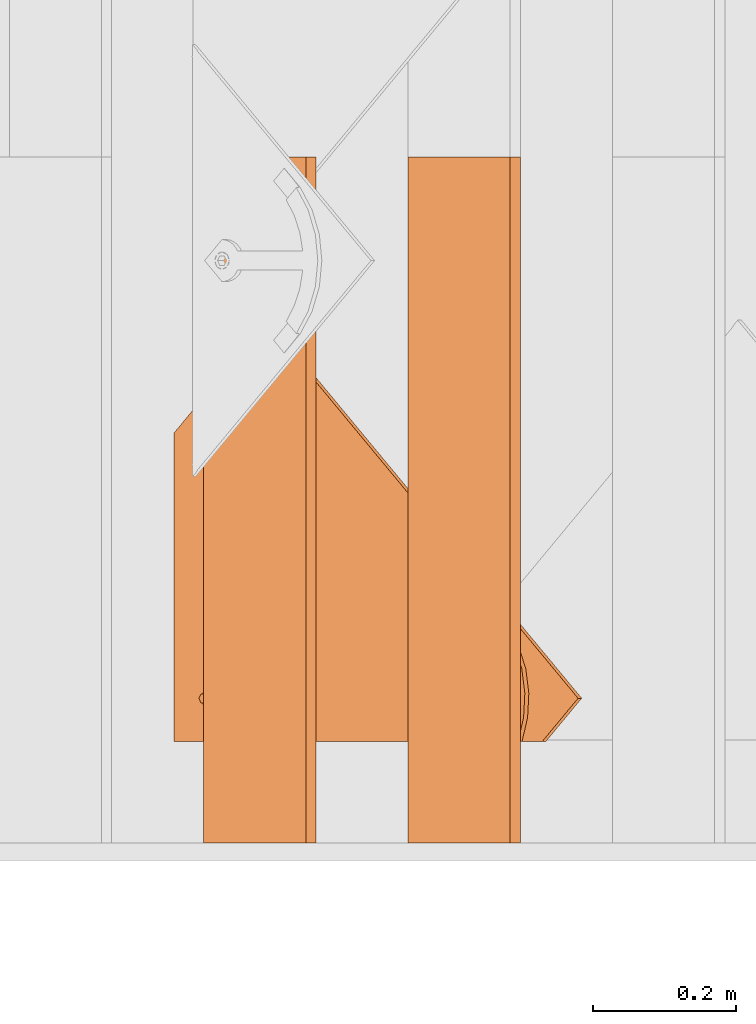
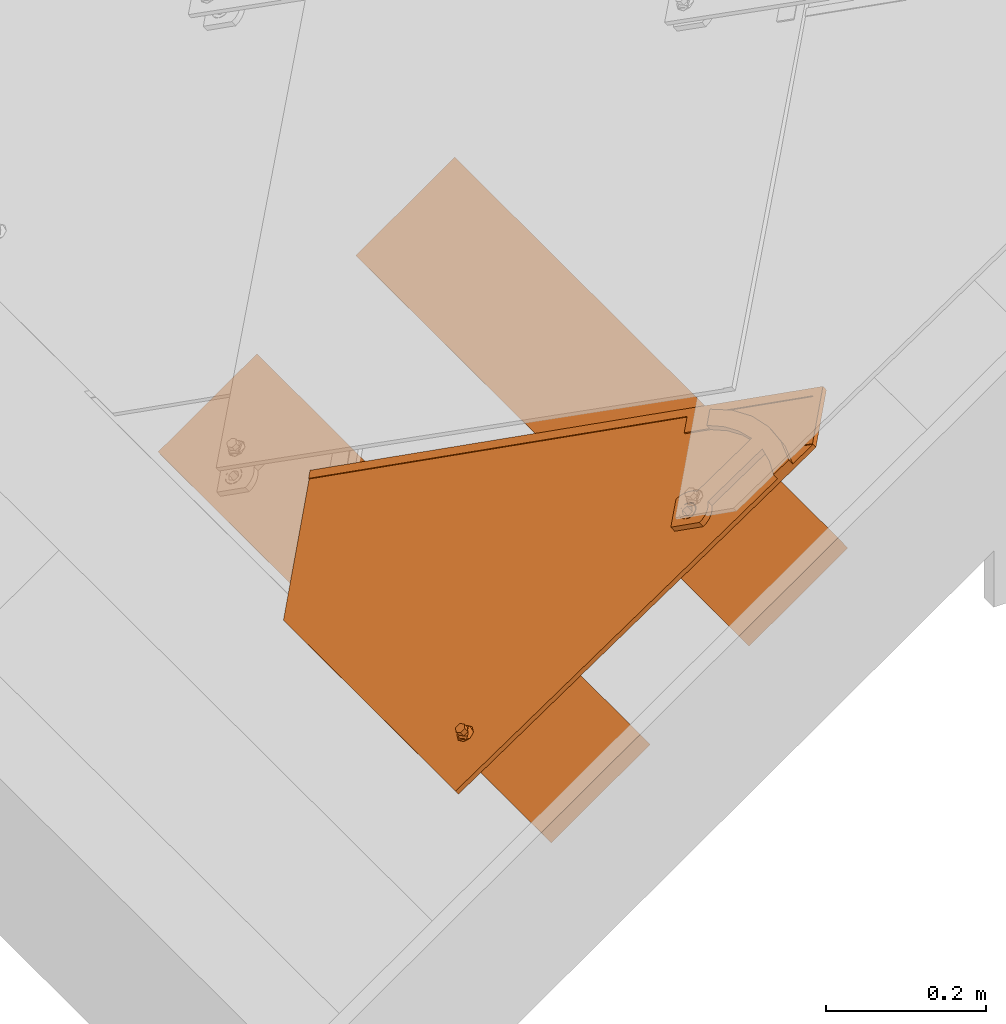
# One storey, part 96 of 133: 3 proxies, 1 element without a shape of its own.
"""IFC2X3 building model written with IfcOpenShell, lengths in millimetres."""

from ifc_helpers import new_model, entity, si_unit, converted_unit, derived_unit, direction, frame, frame_2d, origin, place, context, subcontext, project, spatial, rectangle, extrude, faceted_brep, source, transform, mapped, material, material_list, type_object, type_shapes, element, aggregate, save


model = new_model("IFC2X3")

# Units and contexts
model_context = context("Model", 3, precision=0.01, world=origin(), true_north=direction((6.12303176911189e-17, 1.0)))
body_context = subcontext(model_context, "Body", "Model", "MODEL_VIEW")
ifc_project = project(units=[si_unit("LENGTHUNIT", "METRE", prefix="MILLI"), si_unit("AREAUNIT", "SQUARE_METRE"), si_unit("VOLUMEUNIT", "CUBIC_METRE"), converted_unit("PLANEANGLEUNIT", "DEGREE", entity("IfcRatioMeasure", 0.0174532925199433), si_unit("PLANEANGLEUNIT", "RADIAN"), dimensions=[0, 0, 0, 0, 0, 0, 0]), si_unit("MASSUNIT", "GRAM", prefix="KILO"), derived_unit("MASSDENSITYUNIT", [(si_unit("MASSUNIT", "GRAM", prefix="KILO"), 1), (si_unit("LENGTHUNIT", "METRE"), -3)]), si_unit("TIMEUNIT", "SECOND"), si_unit("FREQUENCYUNIT", "HERTZ"), si_unit("THERMODYNAMICTEMPERATUREUNIT", "DEGREE_CELSIUS"), derived_unit("THERMALTRANSMITTANCEUNIT", [(si_unit("MASSUNIT", "GRAM", prefix="KILO"), 1), (si_unit("THERMODYNAMICTEMPERATUREUNIT", "KELVIN"), -1), (si_unit("TIMEUNIT", "SECOND"), -3)]), derived_unit("VOLUMETRICFLOWRATEUNIT", [(si_unit("LENGTHUNIT", "METRE"), 3), (si_unit("TIMEUNIT", "SECOND"), -1)]), si_unit("ELECTRICCURRENTUNIT", "AMPERE"), si_unit("ELECTRICVOLTAGEUNIT", "VOLT"), si_unit("POWERUNIT", "WATT"), si_unit("FORCEUNIT", "NEWTON", prefix="KILO"), si_unit("ILLUMINANCEUNIT", "LUX"), si_unit("LUMINOUSFLUXUNIT", "LUMEN"), si_unit("LUMINOUSINTENSITYUNIT", "CANDELA"), derived_unit("USERDEFINED", [(si_unit("MASSUNIT", "GRAM", prefix="KILO"), -1), (si_unit("LENGTHUNIT", "METRE"), -2), (si_unit("TIMEUNIT", "SECOND"), 3), (si_unit("LUMINOUSFLUXUNIT", "LUMEN"), 1)]), derived_unit("LINEARVELOCITYUNIT", [(si_unit("LENGTHUNIT", "METRE"), 1), (si_unit("TIMEUNIT", "SECOND"), -1)]), si_unit("PRESSUREUNIT", "PASCAL"), derived_unit("USERDEFINED", [(si_unit("LENGTHUNIT", "METRE"), -2), (si_unit("MASSUNIT", "GRAM", prefix="KILO"), 1), (si_unit("TIMEUNIT", "SECOND"), -2)])], contexts=[model_context])

# Site, building, storey
site_placement = place(None, origin())
site = spatial("IfcSite", under=ifc_project, at=site_placement, Name="Default", CompositionType="ELEMENT")
building_placement = place(site_placement, origin())
building = spatial("IfcBuilding", under=site, at=building_placement, CompositionType="ELEMENT")
storey_placement = place(building_placement, origin())
storey = spatial("IfcBuildingStorey", under=building, at=storey_placement, Name="Level 1", CompositionType="ELEMENT", Elevation=0.0)

# Assembly, proxies
assembly_placement = place(storey_placement, origin())
assembly = element("IfcElementAssembly", 1, at=assembly_placement, inside=storey, Name="Structural Framing Assembly:Roof Construction Assembly", ObjectType="Structural Framing Assembly:Roof Construction Assembly", AssemblyPlace="NOTDEFINED", PredefinedType="USERDEFINED")
ifc_material_1 = material(Name="Wood - Generic - Wood For Showcase")
building_element_proxy_type_1 = type_object("IfcBuildingElementProxyType", Name="Structural Framing 15", PredefinedType="NOTDEFINED", material=ifc_material_1)
shared_shape_1 = source(origin(), body_context, "Body", "SweptSolid", [
    extrude(rectangle(XDim=24.9999999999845, YDim=174.344679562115, at=frame_2d((-1.77635683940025e-13, -4.54747350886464e-13), x_axis=(0.0, 1.0))), frame((1128.20180147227, 2967.09519417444, 2760.23940055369), z_axis=(0.0, 1.0, 0.0), x_axis=(-0.819152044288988, 0.0, -0.573576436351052)), (0.0, 0.0, 1.0), 958.455607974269),
])
type_shapes(building_element_proxy_type_1, [shared_shape_1])
proxy_1_placement = place(assembly_placement, frame((-3141.92561483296, -9670.0, -2200.0)))
proxy_1 = element("IfcBuildingElementProxy", 2, at=proxy_1_placement, type_object=building_element_proxy_type_1, material=ifc_material_1, Name="Structural Framing 129:Structural Framing 15", ObjectType="Structural Framing 129:Structural Framing 15", context=body_context, shape_type="MappedRepresentation", body=[
    mapped(shared_shape_1, transform((0.0, 0.0, 0.0), scale=1.0)),
])
building_element_proxy_type_2 = type_object("IfcBuildingElementProxyType", Name="Structural Framing 15", PredefinedType="NOTDEFINED", material=ifc_material_1)
shared_shape_2 = source(origin(), body_context, "Body", "SweptSolid", [
    extrude(rectangle(XDim=24.9999999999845, YDim=174.344679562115, at=frame_2d((-1.77635683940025e-13, -4.54747350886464e-13), x_axis=(0.0, 1.0))), frame((1128.20180147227, 2967.09519417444, 2760.23940055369), z_axis=(0.0, 1.0, 0.0), x_axis=(-0.819152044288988, 0.0, -0.573576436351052)), (0.0, 0.0, 1.0), 958.455607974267),
])
type_shapes(building_element_proxy_type_2, [shared_shape_2])
proxy_2_placement = place(assembly_placement, frame((-3427.55521618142, -9670.0, -2400.0)))
proxy_2 = element("IfcBuildingElementProxy", 3, at=proxy_2_placement, type_object=building_element_proxy_type_2, material=ifc_material_1, Name="Structural Framing 139:Structural Framing 15", ObjectType="Structural Framing 139:Structural Framing 15", context=body_context, shape_type="MappedRepresentation", body=[
    mapped(shared_shape_2, transform((0.0, 0.0, 0.0), scale=1.0)),
])
aggregate(assembly, [proxy_1, proxy_2])

# Proxy
ifc_material_2 = material(Name="Rubber - Sunstyle - Black")
ifc_material_3 = material(Name="Glass - Sunstyle - Tainted Black")
ifc_material_list_1 = material_list([ifc_material_2, ifc_material_3])
ifc_material_list_2 = material_list([ifc_material_2, ifc_material_3])
building_element_proxy_type_3 = type_object("IfcBuildingElementProxyType", Name="Corner Bottom Big Right - Black", PredefinedType="NOTDEFINED", material=ifc_material_list_2)
shared_shape_3 = source(origin(), body_context, "Body", "Brep", [
    faceted_brep([(0.270009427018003, -2.025866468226, -4.01619789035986), (-5.50419340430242, -5.35913660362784, -3.96037390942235), (-5.50419340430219, -4.99082751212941, 18.0314954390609), (0.270009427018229, -1.65755737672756, 17.9756714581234), (-5.50419340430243, -12.0256768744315, -3.84872594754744), (-5.5041934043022, -11.6573677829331, 18.1431434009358), (0.270009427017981, -15.3589470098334, -3.79290196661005), (0.270009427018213, -14.990637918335, 18.1989673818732), (6.04421225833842, -12.0256768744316, -3.84872594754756), (6.04421225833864, -11.6573677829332, 18.1431434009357), (6.04421225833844, -5.35913660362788, -3.96037390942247), (6.04421225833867, -4.99082751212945, 18.0314954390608), (-8.3336947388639, -16.9265954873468, 18.2313898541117), (0.27000942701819, -20.4898667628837, 18.2910657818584), (-11.8974656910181, -8.32409764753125, 18.0873194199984), (-8.33369473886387, 0.278400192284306, 17.9432489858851), (0.270009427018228, 3.84167146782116, 17.8835730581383), (8.87371359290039, 0.278400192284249, 17.9432489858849), (12.4374845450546, -8.32409764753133, 18.0873194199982), (8.87371359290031, -16.9265954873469, 18.2313898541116), (-11.1602134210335, -6.95050198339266, 20.4858706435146), (-9.50050407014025, -8.25322861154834, 22.3189355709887), (0.270009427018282, -0.940007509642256, 22.9603444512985), (0.27000942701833, 0.300490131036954, 22.3799978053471), (0.270009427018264, 2.4580409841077, 21.3706227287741), (-6.05323627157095, -4.59022324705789, 23.0214764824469), (-6.05323627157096, -11.8906547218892, 23.1437405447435), (0.270009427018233, -18.990246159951, 21.7298281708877), (0.270009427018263, -15.5408704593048, 23.2048725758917), (11.2551842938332, -12.0411541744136, 20.3827540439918), (10.3938597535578, -8.25726753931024, 22.077768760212), (6.59325512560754, -4.59022324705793, 23.0214764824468), (6.5932551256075, -11.8906547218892, 23.1437405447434), (-6.05323627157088, -11.7566262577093, 31.1466287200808), (0.270009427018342, -15.4068419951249, 31.207760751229), (0.270009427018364, -8.10641052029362, 31.0854966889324), (-6.05323627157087, -4.456194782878, 31.0243646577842), (6.59325512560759, -11.7566262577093, 31.1466287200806), (6.59325512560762, -4.45619478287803, 31.024364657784), (0.270009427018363, -0.805979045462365, 30.9632326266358), (0.270009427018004, -8.69240673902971, -3.90454992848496)], [[[0, 1, 2, 3]], [[1, 4, 5, 2]], [[4, 6, 7, 5]], [[6, 8, 9, 7]], [[8, 10, 11, 9]], [[10, 0, 3, 11]], [[12, 7, 13]], [[7, 12, 5]], [[14, 5, 12]], [[5, 14, 2]], [[15, 2, 14]], [[3, 2, 15]], [[15, 16, 3]], [[16, 17, 3]], [[11, 3, 17]], [[11, 17, 18]], [[9, 11, 18]], [[18, 19, 9]], [[7, 9, 19]], [[19, 13, 7]], [[15, 20, 16]], [[21, 22, 23, 24]], [[22, 21, 25]], [[20, 14, 12]], [[15, 14, 20]], [[25, 21, 26]], [[20, 24, 16]], [[12, 13, 27]], [[12, 27, 20]], [[21, 28, 26]], [[21, 27, 28]], [[20, 21, 24]], [[20, 27, 21]], [[19, 29, 13]], [[30, 23, 31]], [[30, 28, 27]], [[24, 23, 30]], [[29, 27, 13]], [[19, 18, 29]], [[29, 30, 27]], [[29, 17, 24]], [[24, 17, 16]], [[31, 32, 30]], [[23, 22, 31]], [[28, 30, 32]], [[29, 24, 30]], [[29, 18, 17]], [[33, 34, 35]], [[35, 36, 33]], [[34, 37, 35]], [[38, 35, 37]], [[35, 38, 39]], [[35, 39, 36]], [[40, 6, 4]], [[4, 1, 40]], [[1, 0, 40]], [[40, 8, 6]], [[0, 10, 40]], [[8, 40, 10]], [[22, 25, 36, 39]], [[25, 26, 33, 36]], [[26, 28, 34, 33]], [[28, 32, 37, 34]], [[32, 31, 38, 37]], [[31, 22, 39, 38]]]),
    faceted_brep([(-518.247351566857, 79.9143812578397, 14.9652572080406), (-518.247351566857, 79.9394990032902, 16.4650468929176), (-526.732038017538, 88.4241854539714, 16.3229495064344), (-526.732038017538, 88.399067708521, 14.8231598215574), (-0.00032251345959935, 614.98308737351, 6.00418773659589), (60.1037538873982, 554.895864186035, 7.01049921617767), (51.6190674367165, 546.411177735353, 7.15259660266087), (-0.000322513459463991, 598.016093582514, 6.28834266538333), (-0.000322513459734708, 615.00820511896, 7.50397742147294), (-0.000322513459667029, 598.041211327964, 7.78813235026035), (51.6190674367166, 546.436295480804, 8.65238628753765), (60.1037538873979, 554.920981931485, 8.51028890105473)], [[[0, 1, 2, 3]], [[0, 3, 4, 5, 6, 7]], [[3, 2, 8, 4]], [[2, 1, 9, 10, 11, 8]], [[1, 0, 7, 9]], [[6, 5, 11, 10]], [[4, 8, 11, 5]], [[9, 7, 6, 10]]]),
    faceted_brep([(0.0, 372.774440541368, 20.3195200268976), (0.0, 377.273809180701, 20.2441667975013), (-8.60370416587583, 376.337711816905, 20.2598440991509), (8.60370416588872, 376.337711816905, 20.2598440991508), (6.64022859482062, 381.107009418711, 20.1799702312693), (12.1674751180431, 384.940209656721, 20.1157736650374), (6.64022859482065, 388.773409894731, 20.0515770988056), (8.6037041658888, 393.542707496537, 19.9717032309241), (0.0, 392.606610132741, 19.9873805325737), (0.0, 397.105978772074, 19.9120273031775), (-8.60370416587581, 393.542707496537, 19.9717032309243), (-6.64022859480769, 388.773409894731, 20.0515770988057), (-12.1674751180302, 384.940209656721, 20.1157736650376), (-6.6402285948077, 381.107009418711, 20.1799702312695), (-6.6402282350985, 388.505487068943, 4.05382046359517), (0.0, 392.338687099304, 3.98962390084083), (-6.64022823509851, 380.839087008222, 4.18221358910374), (0.0, 377.005886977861, 4.24641015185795), (6.64022823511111, 380.839087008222, 4.1822135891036), (6.64022823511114, 388.505487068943, 4.05382046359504), (-8.603704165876, 376.069789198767, 4.26208746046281), (0.0, 372.50651792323, 4.32176338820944), (-12.1674751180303, 384.672287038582, 4.11801702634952), (-8.60370416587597, 393.274784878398, 3.97394659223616), (0.0, 396.838056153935, 3.91427066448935), (8.60370416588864, 393.274784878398, 3.97394659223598), (12.1674751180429, 384.672287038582, 4.11801702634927), (8.60370416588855, 376.069789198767, 4.26208746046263)], [[[0, 1, 2]], [[1, 0, 3]], [[3, 4, 1]], [[4, 3, 5]], [[6, 4, 5]], [[5, 7, 6]], [[7, 8, 6]], [[8, 7, 9]], [[8, 9, 10]], [[10, 11, 8]], [[12, 11, 10]], [[2, 13, 12]], [[12, 13, 11]], [[13, 2, 1]], [[8, 11, 14, 15]], [[11, 13, 16, 14]], [[13, 1, 17, 16]], [[1, 4, 18, 17]], [[4, 6, 19, 18]], [[6, 8, 15, 19]], [[20, 17, 21]], [[17, 20, 16]], [[22, 16, 20]], [[14, 16, 22]], [[23, 14, 22]], [[15, 14, 23]], [[23, 24, 15]], [[24, 25, 15]], [[19, 15, 25]], [[19, 25, 26]], [[26, 18, 19]], [[26, 27, 18]], [[17, 18, 27]], [[27, 21, 17]], [[24, 23, 10, 9]], [[10, 23, 22, 12]], [[20, 21, 0, 2]], [[20, 2, 12, 22]], [[21, 27, 3, 0]], [[3, 27, 26, 5]], [[25, 24, 9, 7]], [[25, 7, 5, 26]]]),
    faceted_brep([(-10.3923048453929, 390.78484910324, 9.75895037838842), (-8.48528137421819, 393.269782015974, 9.7173339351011), (-0.00032251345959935, 614.983087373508, 6.0041877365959), (-11.5911099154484, 387.891083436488, 9.8074137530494), (-6.0, 395.176538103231, 9.68540051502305), (-3.10582854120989, 396.37517508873, 9.6653263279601), (60.1037538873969, 554.895864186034, 7.01049921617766), (0.0, 396.784007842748, 9.65847939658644), (3.1058285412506, 396.37517508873, 9.6653263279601), (6.0, 395.176538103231, 9.68540051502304), (8.48528137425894, 393.269782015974, 9.7173339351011), (10.3923048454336, 390.784849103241, 9.75895037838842), (11.5911099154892, 387.891083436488, 9.8074137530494), (12.0, 384.785690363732, 9.8594213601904), (11.5911099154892, 381.680297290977, 9.9114289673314), (60.103753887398, -67.933460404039, 17.4413406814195), (10.3923048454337, 378.786531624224, 9.95989234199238), (6.58173564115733, -3.94243384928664, 16.369650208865), (8.48528137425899, 376.301598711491, 10.0015087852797), (5.31038666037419, -2.28581190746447, 16.3419059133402), (6.0, 374.394842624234, 10.0334422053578), (3.65353241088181, -1.01464118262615, 16.3206169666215), (3.10582854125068, 373.196205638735, 10.0535163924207), (1.72408477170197, -0.215549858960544, 16.3072341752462), (0.0, 372.787372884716, 10.0603633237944), (-0.346467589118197, 0.0570053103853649, 16.3026695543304), (-2.41701994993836, -0.215549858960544, 16.3072341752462), (-3.10582854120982, 373.196205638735, 10.0535163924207), (-4.34646758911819, -1.01464118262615, 16.3206169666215), (-6.0, 374.394842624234, 10.0334422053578), (-6.00332183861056, -2.28581190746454, 16.3419059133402), (-8.48528137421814, 376.301598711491, 10.0015087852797), (-370.355661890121, -67.9334604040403, 17.4413406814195), (-10.3923048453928, 378.786531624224, 9.95989234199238), (-526.732038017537, 88.3990677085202, 14.8231598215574), (-11.5911099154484, 381.680297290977, 9.9114289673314), (-12.0, 384.785690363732, 9.8594213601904), (-7.27467081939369, -3.94243384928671, 16.369650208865), (-8.07387419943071, -5.87161096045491, 16.4019591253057), (-8.34646758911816, -7.94187300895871, 16.4366308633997), (-8.0738741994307, -10.0121350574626, 16.4713026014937), (-7.27467081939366, -11.9413121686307, 16.5036115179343), (-6.00332183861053, -13.5979341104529, 16.5313558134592), (-4.34646758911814, -14.8691048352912, 16.5526447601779), (-2.41701994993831, -15.6681961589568, 16.5660275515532), (7.38093902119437, -5.87161096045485, 16.4019591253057), (7.65353241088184, -7.94187300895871, 16.4366308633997), (7.38093902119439, -10.0121350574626, 16.4713026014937), (6.58173564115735, -11.9413121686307, 16.5036115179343), (5.31038666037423, -13.5979341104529, 16.5313558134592), (3.65353241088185, -14.8691048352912, 16.5526447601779), (1.72408477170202, -15.6681961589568, 16.5660275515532), (-0.346467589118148, -15.9407513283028, 16.570592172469), (-370.355661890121, -68.0590491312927, 9.94239225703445), (-8.0738741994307, -10.1377237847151, 8.97235417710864), (-7.27467081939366, -12.0669008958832, 9.00466309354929), (-8.34646758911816, -8.06746173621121, 8.93768243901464), (-6.00332183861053, -13.7235228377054, 9.03240738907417), (-4.34646758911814, -14.9946935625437, 9.05369633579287), (60.103753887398, -68.0590491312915, 9.94239225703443), (-8.07387419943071, -5.99719968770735, 8.90301070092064), (-7.27467081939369, -4.06802257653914, 8.87070178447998), (-6.00332183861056, -2.41140063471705, 8.8429574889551), (-8.48528137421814, 376.176009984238, 2.50256036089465), (-10.3923048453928, 378.660942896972, 2.46094391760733), (-526.732038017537, 88.2734789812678, 7.32421139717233), (-11.5911099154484, 381.554708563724, 2.41248054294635), (-12.0, 384.66010163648, 2.36047293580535), (-11.5911099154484, 387.765494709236, 2.30846532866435), (-0.00032251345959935, 614.857498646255, -1.49476068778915), (-10.3923048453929, 390.659260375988, 2.26000195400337), (-8.48528137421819, 393.144193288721, 2.21838551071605), (-6.0, 395.050949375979, 2.18645209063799), (-3.10582854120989, 396.249586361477, 2.16637790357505), (60.1037538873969, 554.770275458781, -0.488449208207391), (0.0, 396.658419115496, 2.15953097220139), (3.1058285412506, 396.249586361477, 2.16637790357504), (6.0, 395.050949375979, 2.18645209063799), (8.48528137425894, 393.144193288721, 2.21838551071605), (10.3923048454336, 390.659260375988, 2.26000195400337), (11.5911099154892, 387.765494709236, 2.30846532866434), (12.0, 384.66010163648, 2.36047293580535), (11.5911099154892, 381.554708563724, 2.41248054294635), (-2.41701994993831, -15.7937848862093, 9.06707912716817), (-0.346467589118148, -16.0663400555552, 9.07164374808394), (1.72408477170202, -15.7937848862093, 9.06707912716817), (3.65353241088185, -14.9946935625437, 9.05369633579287), (5.31038666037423, -13.7235228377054, 9.03240738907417), (6.58173564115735, -12.0669008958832, 9.00466309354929), (7.38093902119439, -10.1377237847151, 8.97235417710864), (7.65353241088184, -8.06746173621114, 8.93768243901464), (7.38093902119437, -5.99719968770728, 8.90301070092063), (6.58173564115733, -4.06802257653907, 8.87070178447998), (10.3923048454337, 378.660942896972, 2.46094391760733), (-6.0, 374.269253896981, 2.5344937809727), (-4.34646758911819, -1.14022990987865, 8.8216685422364), (-3.10582854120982, 373.070616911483, 2.55456796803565), (-2.41701994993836, -0.341138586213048, 8.8082857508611), (0.0, 372.661784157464, 2.56141489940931), (-0.346467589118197, -0.0685834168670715, 8.80372112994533), (1.72408477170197, -0.341138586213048, 8.8082857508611), (3.10582854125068, 373.070616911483, 2.55456796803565), (3.65353241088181, -1.14022990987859, 8.8216685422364), (6.0, 374.269253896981, 2.5344937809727), (5.31038666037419, -2.41140063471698, 8.8429574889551), (8.48528137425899, 376.176009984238, 2.50256036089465)], [[[0, 1, 2]], [[3, 0, 2]], [[4, 2, 1]], [[2, 4, 5]], [[6, 2, 5]], [[7, 6, 5]], [[7, 8, 6]], [[8, 9, 6]], [[10, 6, 9]], [[6, 10, 11]], [[6, 11, 12]], [[12, 13, 6]], [[13, 14, 6]], [[6, 14, 15]], [[14, 16, 15]], [[17, 15, 16]], [[18, 17, 16]], [[17, 18, 19]], [[18, 20, 19]], [[21, 19, 20]], [[20, 22, 21]], [[23, 21, 22]], [[24, 23, 22]], [[23, 24, 25]], [[26, 25, 24]], [[24, 27, 26]], [[26, 27, 28]], [[29, 28, 27]], [[28, 29, 30]], [[29, 31, 30]], [[32, 30, 31]], [[33, 32, 31]], [[33, 34, 32]], [[33, 35, 34]], [[35, 36, 34]], [[36, 3, 34]], [[3, 2, 34]], [[30, 32, 37]], [[37, 32, 38]], [[32, 39, 38]], [[39, 32, 40]], [[40, 32, 41]], [[42, 41, 32]], [[42, 32, 43]], [[43, 32, 15]], [[15, 44, 43]], [[17, 45, 15]], [[45, 46, 15]], [[47, 15, 46]], [[47, 48, 15]], [[49, 15, 48]], [[15, 49, 50]], [[50, 51, 15]], [[51, 52, 15]], [[52, 44, 15]], [[53, 54, 55]], [[54, 53, 56]], [[53, 55, 57]], [[57, 58, 53]], [[53, 58, 59]], [[60, 56, 53]], [[61, 60, 53]], [[61, 53, 62]], [[63, 62, 53]], [[64, 63, 53]], [[65, 64, 53]], [[65, 66, 64]], [[66, 65, 67]], [[67, 65, 68]], [[65, 69, 68]], [[70, 68, 69]], [[71, 70, 69]], [[72, 71, 69]], [[69, 73, 72]], [[74, 73, 69]], [[75, 73, 74]], [[76, 75, 74]], [[77, 76, 74]], [[74, 78, 77]], [[78, 74, 79]], [[80, 79, 74]], [[80, 74, 81]], [[82, 81, 74]], [[82, 74, 59]], [[59, 58, 83]], [[84, 59, 83]], [[84, 85, 59]], [[85, 86, 59]], [[87, 59, 86]], [[59, 87, 88]], [[59, 88, 89]], [[89, 90, 59]], [[90, 91, 59]], [[91, 92, 59]], [[92, 93, 59]], [[93, 82, 59]], [[94, 62, 63]], [[94, 95, 62]], [[96, 95, 94]], [[97, 95, 96]], [[96, 98, 97]], [[99, 97, 98]], [[99, 98, 100]], [[101, 100, 98]], [[102, 100, 101]], [[103, 102, 101]], [[104, 102, 103]], [[103, 105, 104]], [[105, 92, 104]], [[105, 93, 92]], [[36, 67, 68, 3]], [[3, 68, 70, 0]], [[4, 1, 71, 72]], [[70, 71, 1, 0]], [[5, 4, 72, 73]], [[75, 7, 5, 73]], [[8, 76, 77, 9]], [[9, 77, 78, 10]], [[12, 11, 79, 80]], [[78, 79, 11, 10]], [[13, 12, 80, 81]], [[8, 7, 75, 76]], [[13, 81, 82, 14]], [[14, 82, 93, 16]], [[20, 18, 105, 103]], [[93, 105, 18, 16]], [[22, 20, 103, 101]], [[98, 24, 22, 101]], [[27, 96, 94, 29]], [[29, 94, 63, 31]], [[35, 33, 64, 66]], [[63, 64, 33, 31]], [[36, 35, 66, 67]], [[27, 24, 98, 96]], [[34, 2, 69, 65]], [[32, 34, 65, 53]], [[15, 32, 53, 59]], [[6, 15, 59, 74]], [[2, 6, 74, 69]], [[39, 56, 60, 38]], [[38, 60, 61, 37]], [[28, 30, 62, 95]], [[62, 30, 37, 61]], [[26, 28, 95, 97]], [[26, 97, 99, 25]], [[25, 99, 100, 23]], [[23, 100, 102, 21]], [[17, 19, 104, 92]], [[104, 19, 21, 102]], [[45, 17, 92, 91]], [[45, 91, 90, 46]], [[46, 90, 89, 47]], [[47, 89, 88, 48]], [[50, 49, 87, 86]], [[87, 49, 48, 88]], [[51, 50, 86, 85]], [[51, 85, 84, 52]], [[52, 84, 83, 44]], [[44, 83, 58, 43]], [[41, 42, 57, 55]], [[57, 42, 43, 58]], [[40, 41, 55, 54]], [[40, 54, 56, 39]]]),
    faceted_brep([(-114.2509690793, 483.839345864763, 10.7008696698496), (-128.946713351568, 469.147722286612, 10.9469178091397), (-111.269043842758, 451.472531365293, 11.2429332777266), (-84.944396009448, 477.793488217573, 10.8021227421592), (-102.027571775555, 494.874268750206, 10.5160621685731), (-108.279973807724, 489.512620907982, 10.6058564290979), (0.0, 355.735286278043, 10.3459433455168), (0.0, 373.122276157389, 10.0547545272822), (3.10582854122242, 373.531108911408, 10.0479075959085), (-3.10582854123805, 373.531108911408, 10.0479075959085), (6.0, 374.729745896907, 10.0278334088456), (8.48528137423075, 376.636501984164, 9.99589998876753), (29.3894280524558, 385.120593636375, 9.85381256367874), (-6.0, 374.729745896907, 10.0278334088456), (-8.4852813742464, 376.636501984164, 9.99589998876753), (-29.3894280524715, 385.120593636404, 9.85381256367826), (-10.3923048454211, 379.121434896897, 9.95428354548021), (-11.5911099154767, 382.01520056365, 9.90582017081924), (-12.0, 385.120593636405, 9.85381256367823), (-28.6795527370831, 391.540108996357, 9.74630165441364), (-11.5911099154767, 388.225986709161, 9.80180495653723), (-26.5842195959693, 397.649509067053, 9.64398440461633), (-10.3923048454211, 391.119752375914, 9.75334158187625), (-23.204650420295, 403.153659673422, 9.55180357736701), (-8.48528137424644, 393.604685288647, 9.71172513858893), (-18.704106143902, 407.786665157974, 9.47421226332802), (-6.0, 395.511441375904, 9.67979171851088), (-13.3000000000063, 411.324713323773, 9.41495875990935), (-3.10582854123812, 396.710078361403, 9.65971753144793), (0.0, 397.118911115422, 9.65287060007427), (13.2999999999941, 411.324713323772, 9.41495875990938), (-13.3000000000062, 505.643535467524, 7.83535317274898), (13.2999999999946, 505.643535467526, 7.83535317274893), (-7.21723712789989, 530.953901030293, 7.41146752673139), (-41.1626974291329, 525.784666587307, 7.49803934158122), (-38.7697427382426, 500.828655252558, 7.91599043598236), (-73.2491712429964, 513.560140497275, 7.70276973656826), (-62.9243331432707, 491.42502143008, 8.07347790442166), (-84.9431983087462, 477.752822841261, 8.30245321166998), (-102.027571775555, 494.832405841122, 8.01641269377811), (-108.279973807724, 489.470757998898, 8.10620695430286), (-114.2509690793, 483.79748295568, 8.20122019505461), (-111.269043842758, 451.430668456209, 8.74328380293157), (-128.946713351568, 469.105859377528, 8.44726833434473), (27.0541674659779, 528.834391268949, 7.44696404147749), (37.2599857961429, 501.252149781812, 7.90889795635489), (60.1037538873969, 519.521858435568, 7.60292579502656), (60.1037538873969, 492.795625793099, 8.05052369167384), (3.10582854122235, 396.710078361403, 9.65971753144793), (6.0, 395.511441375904, 9.67979171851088), (18.7041061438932, 407.786665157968, 9.47421226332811), (8.48528137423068, 393.604685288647, 9.71172513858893), (23.2046504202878, 403.153659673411, 9.55180357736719), (10.3923048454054, 391.119752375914, 9.75334158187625), (26.5842195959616, 397.649509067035, 9.64398440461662), (11.591109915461, 388.225986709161, 9.80180495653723), (28.6795527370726, 391.540108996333, 9.74630165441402), (12.0, 385.120593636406, 9.85381256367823), (11.591109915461, 382.01520056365, 9.90582017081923), (10.3923048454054, 379.121434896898, 9.95428354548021), (-38.7697427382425, 500.996106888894, 17.9145883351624), (-41.1626974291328, 525.952118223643, 17.4966372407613), (-73.2491712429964, 513.727592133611, 17.7013676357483), (-62.9243331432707, 491.592473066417, 18.0720758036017), (-13.3000000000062, 505.810987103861, 17.833951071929), (-7.21723712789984, 531.121352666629, 17.4100654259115), (13.2999999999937, 505.810987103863, 17.833951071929), (-13.3000000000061, 411.49216496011, 19.4135566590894), (13.2999999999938, 411.492164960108, 19.4135566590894), (0.0, 397.286362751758, 19.6514684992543), (-3.10582854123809, 396.877529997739, 19.658315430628), (-6.0, 395.678893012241, 19.6783896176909), (-18.7041061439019, 407.954116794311, 19.4728101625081), (-8.48528137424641, 393.772136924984, 19.710323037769), (-23.2046504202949, 403.321111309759, 19.5504014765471), (-10.3923048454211, 391.28720401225, 19.7519394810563), (-26.5842195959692, 397.816960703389, 19.6425823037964), (-11.5911099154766, 388.393438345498, 19.8004028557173), (-28.6795527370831, 391.707560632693, 19.7448995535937), (-12.0, 385.288045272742, 19.8524104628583), (-29.3894280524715, 385.28804527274, 19.8524104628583), (-11.5911099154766, 382.182652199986, 19.9044180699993), (-10.3923048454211, 379.288886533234, 19.9528814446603), (-8.48528137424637, 376.803953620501, 19.9944978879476), (0.0, 355.902737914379, 20.3445412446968), (-6.0, 374.897197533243, 20.0264313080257), (-3.10582854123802, 373.698560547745, 20.0465054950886), (0.0, 373.289727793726, 20.0533524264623), (3.10582854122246, 373.698560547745, 20.0465054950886), (6.0, 374.897197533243, 20.0264313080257), (8.48528137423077, 376.803953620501, 19.9944978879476), (29.3894280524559, 385.288045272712, 19.8524104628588), (10.3923048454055, 379.288886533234, 19.9528814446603), (11.591109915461, 382.182652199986, 19.9044180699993), (12.0, 385.288045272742, 19.8524104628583), (28.6795527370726, 391.70756063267, 19.7448995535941), (11.591109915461, 388.393438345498, 19.8004028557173), (26.5842195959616, 397.816960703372, 19.6425823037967), (10.3923048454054, 391.28720401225, 19.7519394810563), (23.2046504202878, 403.321111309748, 19.5504014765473), (8.48528137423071, 393.772136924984, 19.710323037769), (18.7041061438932, 407.954116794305, 19.4728101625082), (6.0, 395.678893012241, 19.6783896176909), (3.10582854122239, 396.877529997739, 19.658315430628), (27.0541674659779, 529.001842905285, 17.4455619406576), (37.259985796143, 501.419601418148, 17.907495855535), (60.1037538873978, 519.689310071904, 17.6015236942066), (60.1037538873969, 492.963077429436, 18.0491215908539), (-84.9443960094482, 477.919076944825, 18.3010711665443), (-102.027571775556, 494.999857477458, 18.0150105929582)], [[[0, 1, 2, 3, 4, 5]], [[6, 7, 8]], [[7, 6, 9]], [[6, 8, 10]], [[10, 11, 6]], [[6, 11, 12]], [[13, 9, 6]], [[14, 13, 6]], [[14, 6, 15]], [[15, 16, 14]], [[16, 15, 17]], [[17, 15, 18]], [[19, 18, 15]], [[20, 18, 19]], [[19, 21, 20]], [[20, 21, 22]], [[23, 22, 21]], [[23, 24, 22]], [[23, 25, 24]], [[25, 26, 24]], [[26, 25, 27]], [[28, 26, 27]], [[27, 29, 28]], [[30, 29, 27]], [[30, 27, 31]], [[30, 31, 32]], [[31, 33, 32]], [[33, 31, 34]], [[35, 34, 31]], [[34, 35, 36]], [[37, 36, 35]], [[37, 38, 36]], [[36, 38, 39]], [[40, 39, 38]], [[40, 38, 41]], [[38, 42, 41]], [[42, 43, 41]], [[32, 33, 44]], [[44, 45, 32]], [[45, 44, 46]], [[46, 47, 45]], [[48, 29, 30]], [[30, 49, 48]], [[49, 30, 50]], [[50, 51, 49]], [[50, 52, 51]], [[51, 52, 53]], [[54, 53, 52]], [[54, 55, 53]], [[56, 55, 54]], [[57, 55, 56]], [[12, 57, 56]], [[58, 57, 12]], [[12, 11, 59]], [[58, 12, 59]], [[1, 0, 41, 43]], [[2, 1, 43, 42]], [[4, 39, 40, 5]], [[40, 41, 0, 5]], [[3, 2, 42, 38]], [[60, 61, 62]], [[63, 60, 62]], [[64, 61, 60]], [[61, 64, 65]], [[66, 65, 64]], [[66, 64, 67]], [[66, 67, 68]], [[68, 67, 69]], [[67, 70, 69]], [[71, 70, 67]], [[71, 67, 72]], [[72, 73, 71]], [[73, 72, 74]], [[73, 74, 75]], [[74, 76, 75]], [[75, 76, 77]], [[78, 77, 76]], [[78, 79, 77]], [[78, 80, 79]], [[79, 80, 81]], [[82, 81, 80]], [[83, 82, 80]], [[83, 80, 84]], [[85, 83, 84]], [[86, 85, 84]], [[87, 86, 84]], [[87, 84, 88]], [[89, 88, 84]], [[89, 84, 90]], [[91, 90, 84]], [[92, 90, 91]], [[91, 93, 92]], [[93, 91, 94]], [[95, 94, 91]], [[95, 96, 94]], [[95, 97, 96]], [[96, 97, 98]], [[99, 98, 97]], [[98, 99, 100]], [[100, 99, 101]], [[101, 68, 102]], [[100, 101, 102]], [[102, 68, 103]], [[103, 68, 69]], [[66, 104, 65]], [[105, 104, 66]], [[105, 106, 104]], [[106, 105, 107]], [[108, 63, 62]], [[62, 109, 108]], [[66, 68, 30, 32]], [[95, 91, 12, 56]], [[97, 95, 56, 54]], [[54, 52, 99, 97]], [[101, 99, 52, 50]], [[68, 101, 50, 30]], [[91, 84, 6, 12]], [[84, 80, 15, 6]], [[72, 67, 27, 25]], [[74, 72, 25, 23]], [[23, 21, 76, 74]], [[78, 76, 21, 19]], [[80, 78, 19, 15]], [[67, 64, 31, 27]], [[104, 106, 46, 44]], [[65, 104, 44, 33]], [[33, 34, 61, 65]], [[62, 61, 34, 36]], [[4, 109, 62, 36, 39]], [[79, 18, 20, 77]], [[77, 20, 22, 75]], [[71, 73, 24, 26]], [[22, 24, 73, 75]], [[70, 71, 26, 28]], [[29, 69, 70, 28]], [[103, 48, 49, 102]], [[102, 49, 51, 100]], [[96, 98, 53, 55]], [[51, 53, 98, 100]], [[94, 96, 55, 57]], [[103, 69, 29, 48]], [[94, 57, 58, 93]], [[93, 58, 59, 92]], [[89, 90, 11, 10]], [[59, 11, 90, 92]], [[88, 89, 10, 8]], [[7, 87, 88, 8]], [[86, 9, 13, 85]], [[85, 13, 14, 83]], [[81, 82, 16, 17]], [[14, 16, 82, 83]], [[79, 81, 17, 18]], [[86, 87, 7, 9]], [[108, 109, 4, 3]], [[32, 45, 105, 66]], [[47, 107, 105, 45]], [[3, 37, 63, 108]], [[3, 38, 37]], [[35, 31, 64, 60]], [[37, 35, 60, 63]], [[106, 107, 47, 46]]]),
])
type_shapes(building_element_proxy_type_3, [shared_shape_3])
proxy_3_placement = place(storey_placement, frame((-2354.03476039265, -6500.79865672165, 337.210792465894), z_axis=(-0.57357643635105, 0.0, 0.819152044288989), x_axis=(0.0, -1.0, 0.0)))
element("IfcBuildingElementProxy", 4, at=proxy_3_placement, inside=storey, type_object=building_element_proxy_type_3, material=ifc_material_list_1, Name="Roofing_Panels_SunStyle_Tile_Corner-Bottom-Big-Right:Corner Bottom Big Right - Black", ObjectType="Roofing_Panels_SunStyle_Tile_Corner-Bottom-Big-Right:Corner Bottom Big Right - Black", context=body_context, shape_type="MappedRepresentation", body=[
    mapped(shared_shape_3, transform((0.0, 0.0, 0.0), scale=1.0)),
])

save(model, "model.ifc")
